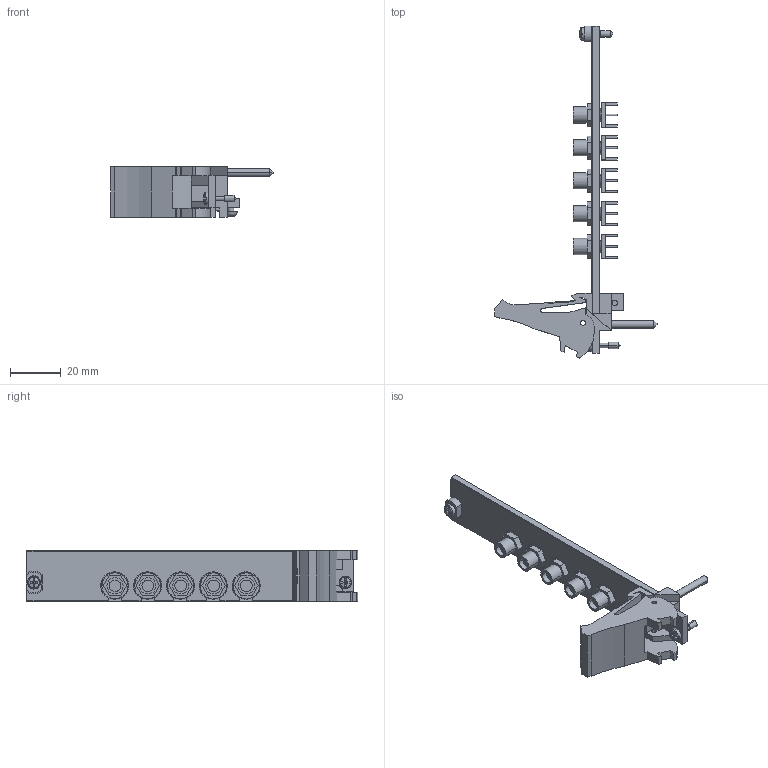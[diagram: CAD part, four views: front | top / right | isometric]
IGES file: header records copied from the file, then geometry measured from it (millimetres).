
Start section:  PTC IGES file: cu_pxi-2594.igs
Global section: file name: cu_pxi-2594.igs; native system: Pro/ENGINEER by Parametric Technology Corporation; preprocessor: 2006080; author: jjorden; organization: Unknown; date: 090908.164842; units: inch
Bounding box: 63.73 x 130.5 x 20.02 mm (x, y, z)
Surface area: 14624.3 mm2 (no closed solid volume)
Topology: 0 solids, 0 shells, 585 faces, 3000 edges, 2992 vertices
Faces by surface type: bspline 415, revolution 170
